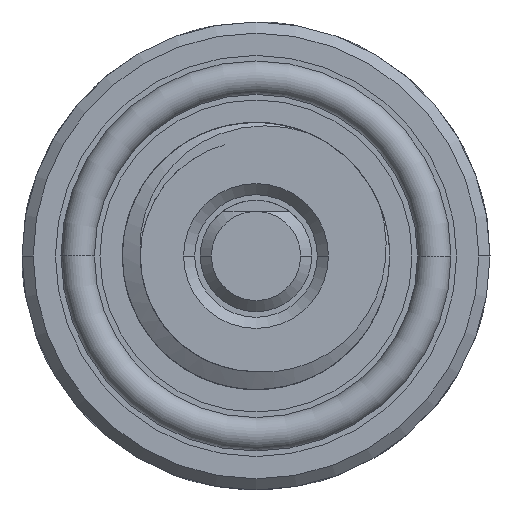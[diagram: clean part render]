
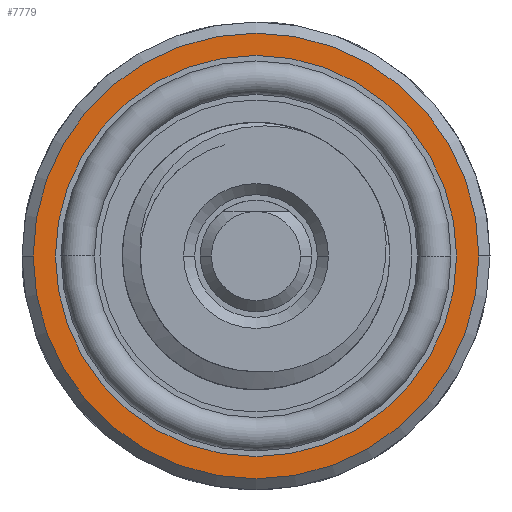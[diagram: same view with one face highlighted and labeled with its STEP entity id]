
A CAD part, left-side view. The second image highlights one B-rep face of the part: STEP entity #7779.
In plain terms, the highlighted planar face has unit normal (-1, 0, 0).
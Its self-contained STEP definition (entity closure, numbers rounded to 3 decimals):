
#7758 = EDGE_LOOP ( 'NONE', ( #7780, #7782 ) ) ;
#7779 = ADVANCED_FACE ( 'NONE', ( #20146, #20141 ), #20140, .T. ) ;
#7780 = ORIENTED_EDGE ( 'NONE', *, *, #7781, .T. ) ;
#7781 = EDGE_CURVE ( 'NONE', #9419, #9348, #20198, .T. ) ;
#7782 = ORIENTED_EDGE ( 'NONE', *, *, #9418, .T. ) ;
#7783 = EDGE_LOOP ( 'NONE', ( #7784, #7795 ) ) ;
#7784 = ORIENTED_EDGE ( 'NONE', *, *, #7794, .F. ) ;
#7794 = EDGE_CURVE ( 'NONE', #9991, #10064, #20192, .T. ) ;
#7795 = ORIENTED_EDGE ( 'NONE', *, *, #9990, .F. ) ;
#9348 = VERTEX_POINT ( 'NONE', #29337 ) ;
#9418 = EDGE_CURVE ( 'NONE', #9348, #9419, #29577, .T. ) ;
#9419 = VERTEX_POINT ( 'NONE', #29572 ) ;
#9990 = EDGE_CURVE ( 'NONE', #10064, #9991, #32405, .T. ) ;
#9991 = VERTEX_POINT ( 'NONE', #32400 ) ;
#10064 = VERTEX_POINT ( 'NONE', #25090 ) ;
#20140 = PLANE ( 'NONE',  #20202 ) ;
#20141 = FACE_BOUND ( 'NONE', #7783, .T. ) ;
#20146 = FACE_OUTER_BOUND ( 'NONE', #7758, .T. ) ;
#20188 = DIRECTION ( 'NONE',  ( 0., -1., 0. ) ) ;
#20189 = DIRECTION ( 'NONE',  ( -1., 0., 0. ) ) ;
#20190 = CARTESIAN_POINT ( 'NONE',  ( 25., 0., 0. ) ) ;
#20191 = AXIS2_PLACEMENT_3D ( 'NONE', #20190, #20189, #20188 ) ;
#20192 = CIRCLE ( 'NONE', #20191, 9. ) ;
#20194 = DIRECTION ( 'NONE',  ( 0., -1., 0. ) ) ;
#20195 = DIRECTION ( 'NONE',  ( -1., 0., 0. ) ) ;
#20196 = CARTESIAN_POINT ( 'NONE',  ( 25., 0., 0. ) ) ;
#20197 = AXIS2_PLACEMENT_3D ( 'NONE', #20196, #20195, #20194 ) ;
#20198 = CIRCLE ( 'NONE', #20197, 10. ) ;
#20199 = DIRECTION ( 'NONE',  ( 0., -1., 0. ) ) ;
#20200 = DIRECTION ( 'NONE',  ( -1., 0., 0. ) ) ;
#20201 = CARTESIAN_POINT ( 'NONE',  ( 25., 6., 0. ) ) ;
#20202 = AXIS2_PLACEMENT_3D ( 'NONE', #20201, #20200, #20199 ) ;
#25090 = CARTESIAN_POINT ( 'NONE',  ( 25., 9., 0. ) ) ;
#29337 = CARTESIAN_POINT ( 'NONE',  ( 25., -10., 0. ) ) ;
#29572 = CARTESIAN_POINT ( 'NONE',  ( 25., 10., 0. ) ) ;
#29573 = DIRECTION ( 'NONE',  ( 0., -1., 0. ) ) ;
#29574 = DIRECTION ( 'NONE',  ( -1., 0., 0. ) ) ;
#29575 = CARTESIAN_POINT ( 'NONE',  ( 25., 0., 0. ) ) ;
#29576 = AXIS2_PLACEMENT_3D ( 'NONE', #29575, #29574, #29573 ) ;
#29577 = CIRCLE ( 'NONE', #29576, 10. ) ;
#32400 = CARTESIAN_POINT ( 'NONE',  ( 25., -9., 0. ) ) ;
#32401 = DIRECTION ( 'NONE',  ( 0., -1., 0. ) ) ;
#32402 = DIRECTION ( 'NONE',  ( -1., 0., 0. ) ) ;
#32403 = CARTESIAN_POINT ( 'NONE',  ( 25., 0., 0. ) ) ;
#32404 = AXIS2_PLACEMENT_3D ( 'NONE', #32403, #32402, #32401 ) ;
#32405 = CIRCLE ( 'NONE', #32404, 9. ) ;
